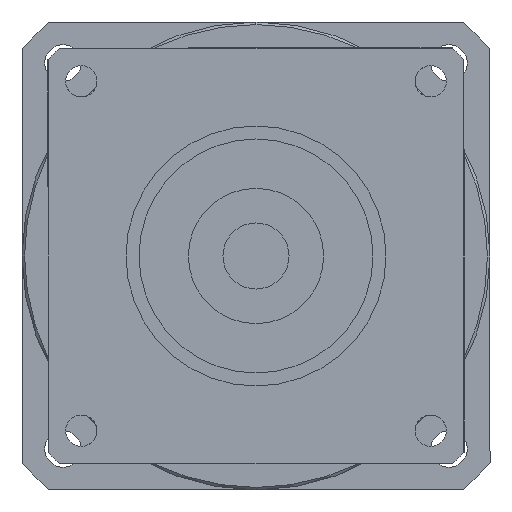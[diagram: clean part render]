
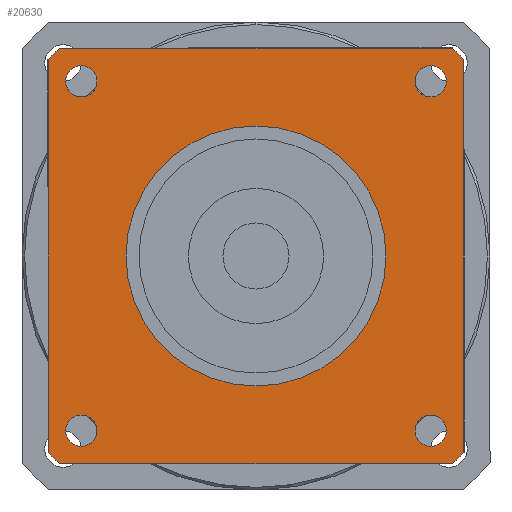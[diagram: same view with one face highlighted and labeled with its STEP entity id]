
A CAD part, left-side view. The second image highlights one B-rep face of the part: STEP entity #20630.
In plain terms, the highlighted planar face has unit normal (-1, 0, 0) as drawn and (0, 0, -1) by its records, which use the part's own axes.
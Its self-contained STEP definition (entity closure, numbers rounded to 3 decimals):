
#16080=CARTESIAN_POINT('',(-37.749,-40.,-117.));
#16090=VERTEX_POINT('',#16080);
#16320=CARTESIAN_POINT('',(37.749,-40.,-117.));
#16330=VERTEX_POINT('',#16320);
#16360=CARTESIAN_POINT('',(-40.,-40.,-117.));
#16370=DIRECTION('',(1.,0.,0.));
#16380=VECTOR('',#16370,1000.);
#16390=LINE('',#16360,#16380);
#16400=EDGE_CURVE('',#16090,#16330,#16390,.T.);
#16560=CARTESIAN_POINT('',(-40.,37.749,-117.));
#16570=VERTEX_POINT('',#16560);
#16820=CARTESIAN_POINT('',(-40.,-37.749,-117.));
#16830=VERTEX_POINT('',#16820);
#16860=CARTESIAN_POINT('',(-40.,40.,-117.));
#16870=DIRECTION('',(0.,-1.,0.));
#16880=VECTOR('',#16870,1000.);
#16890=LINE('',#16860,#16880);
#16900=EDGE_CURVE('',#16570,#16830,#16890,.T.);
#18210=CARTESIAN_POINT('',(0.,0.,
-117.));
#18220=DIRECTION('',(0.,0.,1.));
#18230=DIRECTION('',(0.,-1.,0.));
#18240=AXIS2_PLACEMENT_3D('',#18210,#18220,#18230);
#18250=CIRCLE('',#18240,55.);
#18260=EDGE_CURVE('',#16830,#16090,#18250,.T.);
#18780=CARTESIAN_POINT('',(40.,-37.749,-117.));
#18790=VERTEX_POINT('',#18780);
#18820=CARTESIAN_POINT('',(0.,0.,
-117.));
#18830=DIRECTION('',(0.,0.,1.));
#18840=DIRECTION('',(0.,-1.,0.));
#18850=AXIS2_PLACEMENT_3D('',#18820,#18830,#18840);
#18860=CIRCLE('',#18850,55.);
#18870=EDGE_CURVE('',#16330,#18790,#18860,.T.);
#19010=CARTESIAN_POINT('',(30.588,33.588,-117.));
#19020=VERTEX_POINT('',#19010);
#19200=CARTESIAN_POINT('',(36.588,33.588,-117.));
#19210=VERTEX_POINT('',#19200);
#19240=CARTESIAN_POINT('',(33.588,33.588,-117.));
#19250=DIRECTION('',(0.,0.,-1.));
#19260=DIRECTION('',(0.,1.,0.));
#19270=AXIS2_PLACEMENT_3D('',#19240,#19250,#19260);
#19280=CIRCLE('',#19270,3.);
#19290=CARTESIAN_POINT('',(33.588,36.588,-117.));
#19300=VERTEX_POINT('',#19290);
#19310=EDGE_CURVE('',#19300,#19210,#19280,.T.);
#19330=EDGE_CURVE('',#19020,#19300,#19280,.T.);
#19380=CARTESIAN_POINT('',(-40.,40.,-117.));
#19390=DIRECTION('',(0.,0.,1.));
#19400=DIRECTION('',(-1.,0.,0.));
#19410=AXIS2_PLACEMENT_3D('',#19380,#19390,#19400);
#19420=PLANE('',#19410);
#19430=CARTESIAN_POINT('',(33.588,-33.588,-117.));
#19440=DIRECTION('',(0.,0.,-1.));
#19450=DIRECTION('',(1.,0.,0.));
#19460=AXIS2_PLACEMENT_3D('',#19430,#19440,#19450);
#19470=CIRCLE('',#19460,3.);
#19480=CARTESIAN_POINT('',(36.588,-33.588,-117.));
#19490=VERTEX_POINT('',#19480);
#19500=CARTESIAN_POINT('',(33.588,-36.588,-117.));
#19510=VERTEX_POINT('',#19500);
#19520=EDGE_CURVE('',#19490,#19510,#19470,.T.);
#19530=ORIENTED_EDGE('',*,*,#19520,.F.);
#19540=CARTESIAN_POINT('',(33.588,-30.588,-117.));
#19550=VERTEX_POINT('',#19540);
#19560=EDGE_CURVE('',#19510,#19550,#19470,.T.);
#19570=ORIENTED_EDGE('',*,*,#19560,.F.);
#19580=EDGE_CURVE('',#19550,#19490,#19470,.T.);
#19590=ORIENTED_EDGE('',*,*,#19580,.F.);
#19600=EDGE_LOOP('',(#19590,#19570,#19530));
#19610=FACE_BOUND('',#19600,.T.);
#19620=ORIENTED_EDGE('',*,*,#19310,.F.);
#19630=EDGE_CURVE('',#19210,#19020,#19280,.T.);
#19640=ORIENTED_EDGE('',*,*,#19630,.F.);
#19650=ORIENTED_EDGE('',*,*,#19330,.F.);
#19660=EDGE_LOOP('',(#19650,#19640,#19620));
#19670=FACE_BOUND('',#19660,.T.);
#19680=CARTESIAN_POINT('',(-33.588,33.588,-117.));
#19690=DIRECTION('',(0.,0.,-1.));
#19700=DIRECTION('',(-1.,0.,0.));
#19710=AXIS2_PLACEMENT_3D('',#19680,#19690,#19700);
#19720=CIRCLE('',#19710,3.);
#19730=CARTESIAN_POINT('',(-36.588,33.588,-117.));
#19740=VERTEX_POINT('',#19730);
#19750=CARTESIAN_POINT('',(-33.588,36.588,-117.));
#19760=VERTEX_POINT('',#19750);
#19770=EDGE_CURVE('',#19740,#19760,#19720,.T.);
#19780=ORIENTED_EDGE('',*,*,#19770,.F.);
#19790=CARTESIAN_POINT('',(-33.588,30.588,-117.));
#19800=VERTEX_POINT('',#19790);
#19810=EDGE_CURVE('',#19760,#19800,#19720,.T.);
#19820=ORIENTED_EDGE('',*,*,#19810,.F.);
#19830=EDGE_CURVE('',#19800,#19740,#19720,.T.);
#19840=ORIENTED_EDGE('',*,*,#19830,.F.);
#19850=EDGE_LOOP('',(#19840,#19820,#19780));
#19860=FACE_BOUND('',#19850,.T.);
#19870=CARTESIAN_POINT('',(-33.588,-33.588,-117.));
#19880=DIRECTION('',(0.,0.,-1.));
#19890=DIRECTION('',(0.,-1.,0.));
#19900=AXIS2_PLACEMENT_3D('',#19870,#19880,#19890);
#19910=CIRCLE('',#19900,3.);
#19920=CARTESIAN_POINT('',(-33.588,-36.588,-117.));
#19930=VERTEX_POINT('',#19920);
#19940=CARTESIAN_POINT('',(-36.588,-33.588,-117.));
#19950=VERTEX_POINT('',#19940);
#19960=EDGE_CURVE('',#19930,#19950,#19910,.T.);
#19970=ORIENTED_EDGE('',*,*,#19960,.F.);
#19980=CARTESIAN_POINT('',(-30.588,-33.588,-117.));
#19990=VERTEX_POINT('',#19980);
#20000=EDGE_CURVE('',#19950,#19990,#19910,.T.);
#20010=ORIENTED_EDGE('',*,*,#20000,.F.);
#20020=EDGE_CURVE('',#19990,#19930,#19910,.T.);
#20030=ORIENTED_EDGE('',*,*,#20020,.F.);
#20040=EDGE_LOOP('',(#20030,#20010,#19970));
#20050=FACE_BOUND('',#20040,.T.);
#20060=ORIENTED_EDGE('',*,*,#18260,.F.);
#20070=ORIENTED_EDGE('',*,*,#16400,.F.);
#20080=ORIENTED_EDGE('',*,*,#18870,.F.);
#20090=CARTESIAN_POINT('',(40.,-40.,-117.));
#20100=DIRECTION('',(0.,1.,0.));
#20110=VECTOR('',#20100,1000.);
#20120=LINE('',#20090,#20110);
#20130=CARTESIAN_POINT('',(40.,37.749,-117.));
#20140=VERTEX_POINT('',#20130);
#20150=EDGE_CURVE('',#18790,#20140,#20120,.T.);
#20160=ORIENTED_EDGE('',*,*,#20150,.F.);
#20170=CARTESIAN_POINT('',(0.,0.,
-117.));
#20180=DIRECTION('',(0.,0.,1.));
#20190=DIRECTION('',(0.,-1.,0.));
#20200=AXIS2_PLACEMENT_3D('',#20170,#20180,#20190);
#20210=CIRCLE('',#20200,55.);
#20220=CARTESIAN_POINT('',(37.749,40.,-117.));
#20230=VERTEX_POINT('',#20220);
#20240=EDGE_CURVE('',#20140,#20230,#20210,.T.);
#20250=ORIENTED_EDGE('',*,*,#20240,.F.);
#20260=CARTESIAN_POINT('',(40.,40.,-117.));
#20270=DIRECTION('',(-1.,0.,0.));
#20280=VECTOR('',#20270,1000.);
#20290=LINE('',#20260,#20280);
#20300=CARTESIAN_POINT('',(-37.749,40.,-117.));
#20310=VERTEX_POINT('',#20300);
#20320=EDGE_CURVE('',#20230,#20310,#20290,.T.);
#20330=ORIENTED_EDGE('',*,*,#20320,.F.);
#20340=CARTESIAN_POINT('',(0.,0.,
-117.));
#20350=DIRECTION('',(0.,0.,1.));
#20360=DIRECTION('',(0.,-1.,0.));
#20370=AXIS2_PLACEMENT_3D('',#20340,#20350,#20360);
#20380=CIRCLE('',#20370,55.);
#20390=EDGE_CURVE('',#20310,#16570,#20380,.T.);
#20400=ORIENTED_EDGE('',*,*,#20390,.F.);
#20410=ORIENTED_EDGE('',*,*,#16900,.F.);
#20420=EDGE_LOOP('',(#20410,#20400,#20330,#20250,#20160,#20080,#20070,
#20060));
#20430=FACE_OUTER_BOUND('',#20420,.T.);
#20440=CARTESIAN_POINT('',(0.,0.,
-117.));
#20450=DIRECTION('',(0.,0.,1.));
#20460=DIRECTION('',(0.,-1.,0.));
#20470=AXIS2_PLACEMENT_3D('',#20440,#20450,#20460);
#20480=CIRCLE('',#20470,25.);
#20490=CARTESIAN_POINT('',(25.,0.,-117.));
#20500=VERTEX_POINT('',#20490);
#20510=CARTESIAN_POINT('',(-25.,0.,-117.));
#20520=VERTEX_POINT('',#20510);
#20530=EDGE_CURVE('',#20500,#20520,#20480,.T.);
#20540=ORIENTED_EDGE('',*,*,#20530,.T.);
#20550=CARTESIAN_POINT('',(0.,-25.,-117.));
#20560=VERTEX_POINT('',#20550);
#20570=EDGE_CURVE('',#20560,#20500,#20480,.T.);
#20580=ORIENTED_EDGE('',*,*,#20570,.T.);
#20590=EDGE_CURVE('',#20520,#20560,#20480,.T.);
#20600=ORIENTED_EDGE('',*,*,#20590,.T.);
#20610=EDGE_LOOP('',(#20600,#20580,#20540));
#20620=FACE_BOUND('',#20610,.T.);
#20630=ADVANCED_FACE('',(#19610,#19670,#19860,#20050,#20430,#20620),
#19420,.F.);
